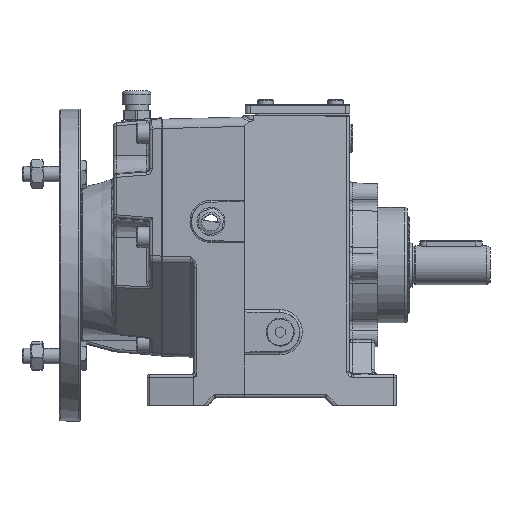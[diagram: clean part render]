
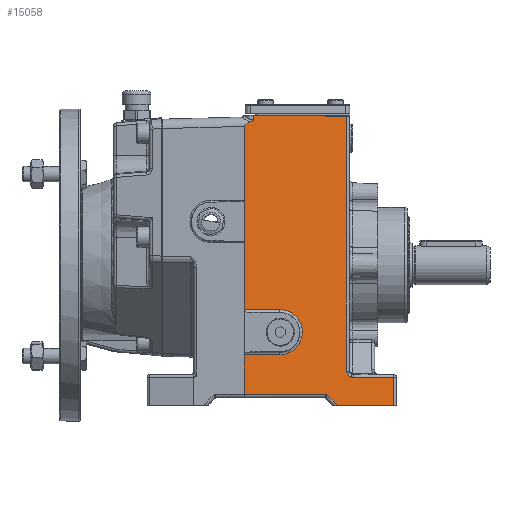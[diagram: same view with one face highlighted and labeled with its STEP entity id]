
A CAD part, front view. The second image highlights one B-rep face of the part: STEP entity #15058.
In plain terms, the highlighted planar face has unit normal (0.174, -0.985, 0).
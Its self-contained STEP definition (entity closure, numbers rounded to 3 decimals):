
#10243=CARTESIAN_POINT('',(-11.604,-86.46,189.0));
#10244=VERTEX_POINT('',#10243);
#10252=CARTESIAN_POINT('',(21.062,-80.7,189.0));
#10253=VERTEX_POINT('',#10252);
#10254=CARTESIAN_POINT('',(21.062,-80.7,189.0));
#10255=DIRECTION('',(-0.985,-0.174,0.0));
#10256=VECTOR('',#10255,33.17);
#10257=LINE('',#10254,#10256);
#10258=EDGE_CURVE('',#10253,#10244,#10257,.T.);
#13981=CARTESIAN_POINT('',(-17.5,-87.5,134.5));
#13982=VERTEX_POINT('',#13981);
#14015=CARTESIAN_POINT('',(-17.5,-87.5,64.5));
#14016=VERTEX_POINT('',#14015);
#14024=CARTESIAN_POINT('',(-17.5,-87.5,35.5));
#14025=VERTEX_POINT('',#14024);
#14056=CARTESIAN_POINT('',(5.153,-83.506,64.5));
#14057=VERTEX_POINT('',#14056);
#14065=CARTESIAN_POINT('',(5.153,-83.506,64.5));
#14066=DIRECTION('',(-0.985,-0.174,0.0));
#14067=VECTOR('',#14066,23.002);
#14068=LINE('',#14065,#14067);
#14069=EDGE_CURVE('',#14057,#14016,#14068,.T.);
#14867=CARTESIAN_POINT('',(47.934,-75.962,188.296));
#14868=VERTEX_POINT('',#14867);
#14893=CARTESIAN_POINT('',(21.062,-80.7,189.));
#14894=DIRECTION('',(0.984,0.174,-0.026));
#14895=VECTOR('',#14894,27.296);
#14896=LINE('',#14893,#14895);
#14897=EDGE_CURVE('',#10253,#14868,#14896,.T.);
#14903=CARTESIAN_POINT('',(80.,-70.308,188.0));
#14904=DIRECTION('',(-0.174,0.985,0.0));
#14905=DIRECTION('',(0.0,0.0,1.0));
#14906=AXIS2_PLACEMENT_3D('',#14903,#14904,#14905);
#14907=PLANE('',#14906);
#14908=ORIENTED_EDGE('',*,*,#10258,.T.);
#14909=CARTESIAN_POINT('',(-11.672,-86.472,186.412));
#14910=VERTEX_POINT('',#14909);
#14911=CARTESIAN_POINT('',(-11.672,-86.472,186.412));
#14912=DIRECTION('',(0.026,0.005,1.));
#14913=VECTOR('',#14912,2.589);
#14914=LINE('',#14911,#14913);
#14915=EDGE_CURVE('',#14910,#10244,#14914,.T.);
#14916=ORIENTED_EDGE('',*,*,#14915,.F.);
#14917=CARTESIAN_POINT('',(-13.371,-86.772,185.166));
#14918=VERTEX_POINT('',#14917);
#14919=CARTESIAN_POINT('',(-13.371,-86.772,185.166));
#14920=CARTESIAN_POINT('',(-13.227,-86.747,185.218));
#14921=CARTESIAN_POINT('',(-13.088,-86.722,185.28));
#14922=CARTESIAN_POINT('',(-12.434,-86.607,185.621));
#14923=CARTESIAN_POINT('',(-12.032,-86.536,185.992));
#14924=CARTESIAN_POINT('',(-11.678,-86.473,186.405));
#14925=CARTESIAN_POINT('',(-11.675,-86.473,186.409));
#14926=CARTESIAN_POINT('',(-11.672,-86.472,186.412));
#14927=B_SPLINE_CURVE_WITH_KNOTS('',3,(#14919,#14920,#14921,#14922,#14923,#14924,#14925,#14926),.UNSPECIFIED.,.F.,.U.,(4,2,2,4),(0.0,0.046,0.224,0.226),.UNSPECIFIED.);
#14928=EDGE_CURVE('',#14918,#14910,#14927,.T.);
#14929=ORIENTED_EDGE('',*,*,#14928,.F.);
#14930=CARTESIAN_POINT('',(-17.5,-87.5,182.002));
#14931=VERTEX_POINT('',#14930);
#14932=CARTESIAN_POINT('',(12.138,-82.274,182.774));
#14933=DIRECTION('',(-0.174,0.985,0.));
#14934=DIRECTION('',(-0.984,-0.174,-0.027));
#14935=AXIS2_PLACEMENT_3D('',#14932,#14933,#14934);
#14936=ELLIPSE('',#14935,30.105,6.);
#14937=EDGE_CURVE('',#14931,#14918,#14936,.T.);
#14938=ORIENTED_EDGE('',*,*,#14937,.F.);
#14939=CARTESIAN_POINT('',(-17.5,-87.5,134.5));
#14940=DIRECTION('',(0.0,0.0,1.0));
#14941=VECTOR('',#14940,47.502);
#14942=LINE('',#14939,#14941);
#14943=EDGE_CURVE('',#13982,#14931,#14942,.T.);
#14944=ORIENTED_EDGE('',*,*,#14943,.F.);
#14945=CARTESIAN_POINT('',(-17.5,-87.5,107.5));
#14946=VERTEX_POINT('',#14945);
#14947=CARTESIAN_POINT('',(-17.5,-87.5,107.5));
#14948=DIRECTION('',(0.0,0.0,1.0));
#14949=VECTOR('',#14948,27.);
#14950=LINE('',#14947,#14949);
#14951=EDGE_CURVE('',#14946,#13982,#14950,.T.);
#14952=ORIENTED_EDGE('',*,*,#14951,.F.);
#14953=CARTESIAN_POINT('',(-17.5,-87.5,64.5));
#14954=DIRECTION('',(0.0,0.0,1.0));
#14955=VECTOR('',#14954,43.);
#14956=LINE('',#14953,#14955);
#14957=EDGE_CURVE('',#14016,#14946,#14956,.T.);
#14958=ORIENTED_EDGE('',*,*,#14957,.F.);
#14959=ORIENTED_EDGE('',*,*,#14069,.F.);
#14960=CARTESIAN_POINT('',(5.153,-83.506,35.5));
#14961=VERTEX_POINT('',#14960);
#14962=CARTESIAN_POINT('',(5.153,-83.506,50.0));
#14963=DIRECTION('',(0.174,-0.985,0.0));
#14964=DIRECTION('',(0.985,0.174,0.0));
#14965=AXIS2_PLACEMENT_3D('',#14962,#14963,#14964);
#14966=ELLIPSE('',#14965,14.724,14.5);
#14967=EDGE_CURVE('',#14961,#14057,#14966,.T.);
#14968=ORIENTED_EDGE('',*,*,#14967,.F.);
#14969=CARTESIAN_POINT('',(-17.5,-87.5,35.5));
#14970=DIRECTION('',(0.985,0.174,0.));
#14971=VECTOR('',#14970,23.002);
#14972=LINE('',#14969,#14971);
#14973=EDGE_CURVE('',#14025,#14961,#14972,.T.);
#14974=ORIENTED_EDGE('',*,*,#14973,.F.);
#14975=CARTESIAN_POINT('',(-17.5,-87.5,10.));
#14976=VERTEX_POINT('',#14975);
#14977=CARTESIAN_POINT('',(-17.5,-87.5,10.));
#14978=DIRECTION('',(0.0,0.0,1.0));
#14979=VECTOR('',#14978,25.5);
#14980=LINE('',#14977,#14979);
#14981=EDGE_CURVE('',#14976,#14025,#14980,.T.);
#14982=ORIENTED_EDGE('',*,*,#14981,.F.);
#14983=CARTESIAN_POINT('',(35.176,-78.212,10.));
#14984=VERTEX_POINT('',#14983);
#14985=CARTESIAN_POINT('',(35.176,-78.212,10.));
#14986=DIRECTION('',(-0.985,-0.174,0.));
#14987=VECTOR('',#14986,53.488);
#14988=LINE('',#14985,#14987);
#14989=EDGE_CURVE('',#14984,#14976,#14988,.T.);
#14990=ORIENTED_EDGE('',*,*,#14989,.F.);
#14991=CARTESIAN_POINT('',(42.176,-76.978,3.));
#14992=VERTEX_POINT('',#14991);
#14993=CARTESIAN_POINT('',(42.176,-76.978,3.));
#14994=DIRECTION('',(-0.702,-0.124,0.702));
#14995=VECTOR('',#14994,9.976);
#14996=LINE('',#14993,#14995);
#14997=EDGE_CURVE('',#14992,#14984,#14996,.T.);
#14998=ORIENTED_EDGE('',*,*,#14997,.F.);
#14999=CARTESIAN_POINT('',(78.347,-70.6,3.));
#15000=VERTEX_POINT('',#14999);
#15001=CARTESIAN_POINT('',(42.176,-76.978,3.));
#15002=DIRECTION('',(0.985,0.174,0.0));
#15003=VECTOR('',#15002,36.73);
#15004=LINE('',#15001,#15003);
#15005=EDGE_CURVE('',#14992,#15000,#15004,.T.);
#15006=ORIENTED_EDGE('',*,*,#15005,.T.);
#15007=CARTESIAN_POINT('',(78.347,-70.6,21.));
#15008=VERTEX_POINT('',#15007);
#15009=CARTESIAN_POINT('',(78.347,-70.6,21.));
#15010=DIRECTION('',(0.0,0.0,-1.0));
#15011=VECTOR('',#15010,18.);
#15012=LINE('',#15009,#15011);
#15013=EDGE_CURVE('',#15008,#15000,#15012,.T.);
#15014=ORIENTED_EDGE('',*,*,#15013,.F.);
#15015=CARTESIAN_POINT('',(52.347,-75.184,21.));
#15016=VERTEX_POINT('',#15015);
#15017=CARTESIAN_POINT('',(52.347,-75.184,21.));
#15018=DIRECTION('',(0.985,0.174,0.));
#15019=VECTOR('',#15018,26.401);
#15020=LINE('',#15017,#15019);
#15021=EDGE_CURVE('',#15016,#15008,#15020,.T.);
#15022=ORIENTED_EDGE('',*,*,#15021,.F.);
#15023=CARTESIAN_POINT('',(50.727,-75.47,21.343));
#15024=VERTEX_POINT('',#15023);
#15025=CARTESIAN_POINT('',(52.347,-75.184,25.));
#15026=DIRECTION('',(0.174,-0.985,0.));
#15027=DIRECTION('',(-0.985,-0.174,0.));
#15028=AXIS2_PLACEMENT_3D('',#15025,#15026,#15027);
#15029=ELLIPSE('',#15028,4.062,4.0);
#15030=EDGE_CURVE('',#15024,#15016,#15029,.T.);
#15031=ORIENTED_EDGE('',*,*,#15030,.F.);
#15032=CARTESIAN_POINT('',(47.934,-75.962,25.0));
#15033=VERTEX_POINT('',#15032);
#15034=CARTESIAN_POINT('',(47.934,-75.962,25.0));
#15035=CARTESIAN_POINT('',(47.935,-75.962,24.997));
#15036=CARTESIAN_POINT('',(47.936,-75.962,24.994));
#15037=CARTESIAN_POINT('',(48.041,-75.943,24.693));
#15038=CARTESIAN_POINT('',(48.198,-75.916,24.244));
#15039=CARTESIAN_POINT('',(48.452,-75.871,23.662));
#15040=CARTESIAN_POINT('',(48.672,-75.832,23.242));
#15041=CARTESIAN_POINT('',(48.926,-75.787,22.84));
#15042=CARTESIAN_POINT('',(49.315,-75.719,22.339));
#15043=CARTESIAN_POINT('',(49.891,-75.617,21.794));
#15044=CARTESIAN_POINT('',(50.44,-75.52,21.47));
#15045=CARTESIAN_POINT('',(50.727,-75.47,21.343));
#15046=B_SPLINE_CURVE_WITH_KNOTS('',3,(#15034,#15035,#15036,#15037,#15038,#15039,#15040,#15041,#15042,#15043,#15044,#15045),.UNSPECIFIED.,.F.,.U.,(4,2,1,1,1,1,1,1,4),(-0.001,0.0,0.095,0.143,0.19,0.238,0.285,0.381,0.476),.UNSPECIFIED.);
#15047=EDGE_CURVE('',#15033,#15024,#15046,.T.);
#15048=ORIENTED_EDGE('',*,*,#15047,.F.);
#15049=CARTESIAN_POINT('',(47.934,-75.962,188.296));
#15050=DIRECTION('',(0.0,0.0,-1.0));
#15051=VECTOR('',#15050,163.296);
#15052=LINE('',#15049,#15051);
#15053=EDGE_CURVE('',#14868,#15033,#15052,.T.);
#15054=ORIENTED_EDGE('',*,*,#15053,.F.);
#15055=ORIENTED_EDGE('',*,*,#14897,.F.);
#15056=EDGE_LOOP('',(#14908,#14916,#14929,#14938,#14944,#14952,#14958,#14959,#14968,#14974,#14982,#14990,#14998,#15006,#15014,#15022,#15031,#15048,#15054,#15055));
#15057=FACE_OUTER_BOUND('',#15056,.T.);
#15058=ADVANCED_FACE('',(#15057),#14907,.F.);
